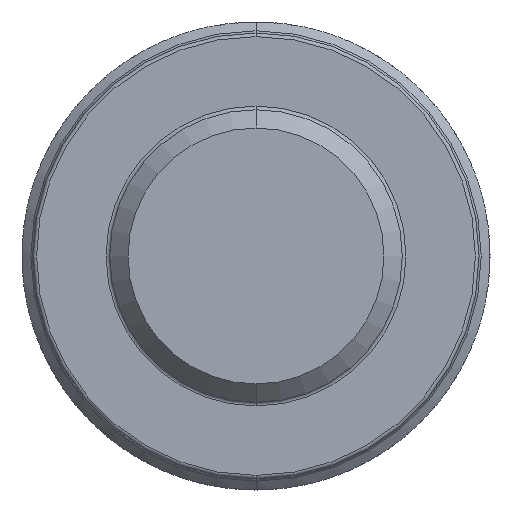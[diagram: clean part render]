
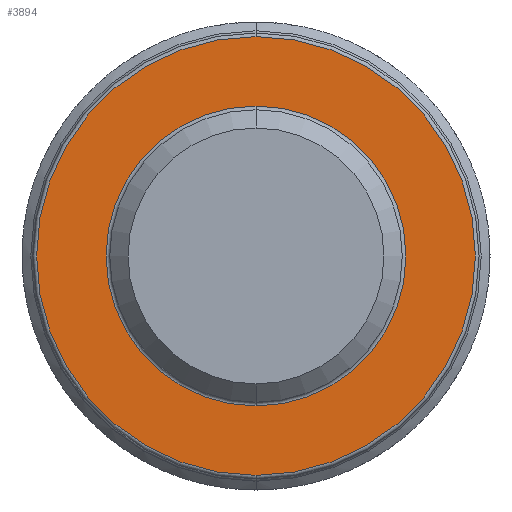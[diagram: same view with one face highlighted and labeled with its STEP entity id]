
A CAD part, front view. The second image highlights one B-rep face of the part: STEP entity #3894.
In plain terms, the highlighted planar face has unit normal (0, -1, 0).
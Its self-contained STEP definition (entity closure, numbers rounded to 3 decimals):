
#230 = CIRCLE ( 'NONE', #2804, 4.1 ) ;
#378 = ORIENTED_EDGE ( 'NONE', *, *, #4812, .T. ) ;
#647 = DIRECTION ( 'NONE',  ( 0., 1., 0. ) ) ;
#769 = FACE_BOUND ( 'NONE', #6116, .T. ) ;
#796 = ORIENTED_EDGE ( 'NONE', *, *, #4771, .T. ) ;
#812 = FACE_OUTER_BOUND ( 'NONE', #4294, .T. ) ;
#885 = VERTEX_POINT ( 'NONE', #3947 ) ;
#1231 = DIRECTION ( 'NONE',  ( 0., 0., -1. ) ) ;
#1338 = DIRECTION ( 'NONE',  ( 0., 0., -1. ) ) ;
#1375 = CARTESIAN_POINT ( 'NONE',  ( 4., -8., 0. ) ) ;
#1391 = CARTESIAN_POINT ( 'NONE',  ( 0., -8., 0. ) ) ;
#1570 = EDGE_CURVE ( 'NONE', #5662, #6427, #3256, .T. ) ;
#1869 = CIRCLE ( 'NONE', #6570, 6. ) ;
#2290 = DIRECTION ( 'NONE',  ( 0., -1., 0. ) ) ;
#2371 = CARTESIAN_POINT ( 'NONE',  ( 0., -8., -4.1 ) ) ;
#2600 = DIRECTION ( 'NONE',  ( 0., 0., -1. ) ) ;
#2615 = CARTESIAN_POINT ( 'NONE',  ( 0., -8., 0. ) ) ;
#2719 = CARTESIAN_POINT ( 'NONE',  ( 0., -8., 4.1 ) ) ;
#2768 = ORIENTED_EDGE ( 'NONE', *, *, #6866, .T. ) ;
#2804 = AXIS2_PLACEMENT_3D ( 'NONE', #2615, #3250, #5822 ) ;
#2903 = CARTESIAN_POINT ( 'NONE',  ( 0., -8., 6. ) ) ;
#3178 = CIRCLE ( 'NONE', #5866, 6. ) ;
#3229 = ORIENTED_EDGE ( 'NONE', *, *, #1570, .T. ) ;
#3250 = DIRECTION ( 'NONE',  ( 0., 1., 0. ) ) ;
#3256 = CIRCLE ( 'NONE', #3794, 4.1 ) ;
#3794 = AXIS2_PLACEMENT_3D ( 'NONE', #7104, #647, #1338 ) ;
#3894 = ADVANCED_FACE ( 'NONE', ( #769, #812 ), #7824, .T. ) ;
#3945 = DIRECTION ( 'NONE',  ( 0., -1., 0. ) ) ;
#3947 = CARTESIAN_POINT ( 'NONE',  ( 0., -8., -6. ) ) ;
#4294 = EDGE_LOOP ( 'NONE', ( #2768, #796 ) ) ;
#4771 = EDGE_CURVE ( 'NONE', #5840, #885, #1869, .T. ) ;
#4812 = EDGE_CURVE ( 'NONE', #6427, #5662, #230, .T. ) ;
#5115 = DIRECTION ( 'NONE',  ( 0., -1., 0. ) ) ;
#5662 = VERTEX_POINT ( 'NONE', #2371 ) ;
#5822 = DIRECTION ( 'NONE',  ( 0., 0., -1. ) ) ;
#5840 = VERTEX_POINT ( 'NONE', #2903 ) ;
#5866 = AXIS2_PLACEMENT_3D ( 'NONE', #7558, #2290, #6916 ) ;
#5886 = AXIS2_PLACEMENT_3D ( 'NONE', #1375, #3945, #2600 ) ;
#6116 = EDGE_LOOP ( 'NONE', ( #3229, #378 ) ) ;
#6427 = VERTEX_POINT ( 'NONE', #2719 ) ;
#6570 = AXIS2_PLACEMENT_3D ( 'NONE', #1391, #5115, #1231 ) ;
#6866 = EDGE_CURVE ( 'NONE', #885, #5840, #3178, .T. ) ;
#6916 = DIRECTION ( 'NONE',  ( 0., 0., -1. ) ) ;
#7104 = CARTESIAN_POINT ( 'NONE',  ( 0., -8., 0. ) ) ;
#7558 = CARTESIAN_POINT ( 'NONE',  ( 0., -8., 0. ) ) ;
#7824 = PLANE ( 'NONE',  #5886 ) ;
